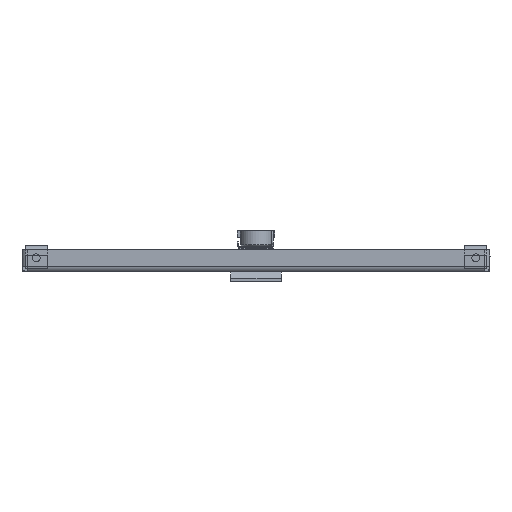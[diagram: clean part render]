
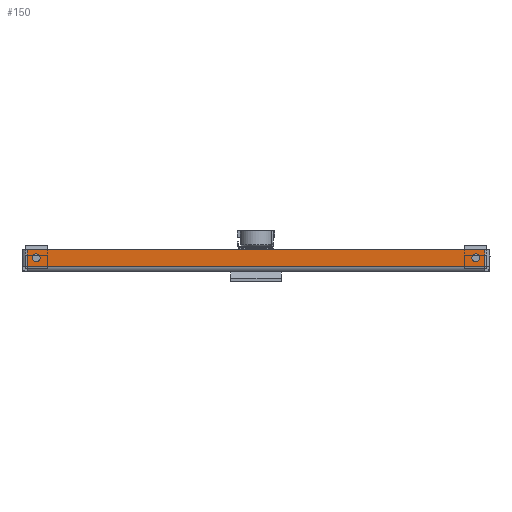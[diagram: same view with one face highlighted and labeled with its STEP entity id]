
A CAD part, left-side view. The second image highlights one B-rep face of the part: STEP entity #150.
In plain terms, the highlighted planar face has unit normal (-1, 0, 0).
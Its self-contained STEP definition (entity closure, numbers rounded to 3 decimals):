
#150=ADVANCED_FACE('',(#799,#801,#803),#805,.F.);
#799=FACE_BOUND('',#800,.T.);
#800=EDGE_LOOP('',(#3544,#3545,#3546,#3547));
#801=FACE_BOUND('',#802,.T.);
#802=EDGE_LOOP('',(#3548));
#803=FACE_BOUND('',#804,.T.);
#804=EDGE_LOOP('',(#3549));
#805=PLANE('',#806);
#806=AXIS2_PLACEMENT_3D('',#807,#808,#809);
#807=CARTESIAN_POINT('',(-393.2,0.,0.));
#808=DIRECTION('',(1.,0.,0.));
#809=DIRECTION('',(0.,-1.,0.));
#3544=ORIENTED_EDGE('',*,*,#5313,.F.);
#3545=ORIENTED_EDGE('',*,*,#5315,.F.);
#3546=ORIENTED_EDGE('',*,*,#5316,.F.);
#3547=ORIENTED_EDGE('',*,*,#5317,.F.);
#3548=ORIENTED_EDGE('',*,*,#5130,.T.);
#3549=ORIENTED_EDGE('',*,*,#5132,.F.);
#5130=EDGE_CURVE('',#6046,#6046,#6047,.T.);
#5132=EDGE_CURVE('',#6050,#6050,#6051,.T.);
#5313=EDGE_CURVE('',#6352,#6345,#6356,.T.);
#5315=EDGE_CURVE('',#6358,#6352,#6359,.T.);
#5316=EDGE_CURVE('',#6360,#6358,#6361,.T.);
#5317=EDGE_CURVE('',#6345,#6360,#6362,.T.);
#6046=VERTEX_POINT('',#7552);
#6047=CIRCLE('',#7553,2.5);
#6050=VERTEX_POINT('',#7562);
#6051=CIRCLE('',#7563,2.5);
#6345=VERTEX_POINT('',#8305);
#6352=VERTEX_POINT('',#8325);
#6356=LINE('',#8336,#8337);
#6358=VERTEX_POINT('',#8342);
#6359=LINE('',#8343,#8344);
#6360=VERTEX_POINT('',#8346);
#6361=LINE('',#8347,#8348);
#6362=LINE('',#8350,#8351);
#7552=CARTESIAN_POINT('',(-393.2,-139.5,11.5));
#7553=AXIS2_PLACEMENT_3D('',#7554,#7555,#7556);
#7554=CARTESIAN_POINT('',(-393.2,-139.5,9.));
#7555=DIRECTION('',(1.,0.,0.));
#7556=DIRECTION('',(0.,0.,1.));
#7562=CARTESIAN_POINT('',(-393.2,139.5,11.5));
#7563=AXIS2_PLACEMENT_3D('',#7564,#7565,#7566);
#7564=CARTESIAN_POINT('',(-393.2,139.5,9.));
#7565=DIRECTION('',(-1.,0.,0.));
#7566=DIRECTION('',(0.,0.,-1.));
#8305=CARTESIAN_POINT('',(-393.2,145.1,3.4));
#8325=CARTESIAN_POINT('',(-393.2,-145.1,3.4));
#8336=CARTESIAN_POINT('',(-393.2,-145.1,3.4));
#8337=VECTOR('',#8338,1.);
#8338=DIRECTION('',(0.,1.,0.));
#8342=CARTESIAN_POINT('',(-393.2,-145.1,14.));
#8343=CARTESIAN_POINT('',(-393.2,-145.1,14.));
#8344=VECTOR('',#8345,1.);
#8345=DIRECTION('',(0.,0.,-1.));
#8346=CARTESIAN_POINT('',(-393.2,145.1,14.));
#8347=CARTESIAN_POINT('',(-393.2,145.1,14.));
#8348=VECTOR('',#8349,1.);
#8349=DIRECTION('',(0.,-1.,0.));
#8350=CARTESIAN_POINT('',(-393.2,145.1,3.4));
#8351=VECTOR('',#8352,1.);
#8352=DIRECTION('',(0.,0.,1.));
